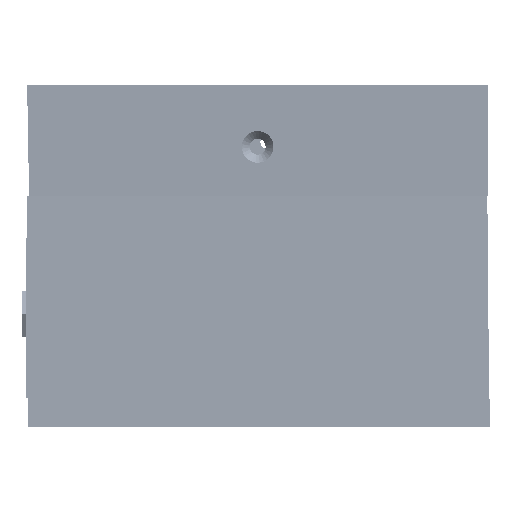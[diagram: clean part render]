
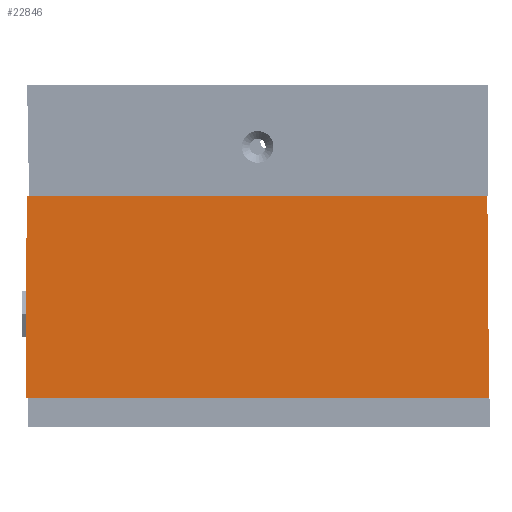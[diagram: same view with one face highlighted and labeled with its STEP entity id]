
A CAD part, left-side view. The second image highlights one B-rep face of the part: STEP entity #22846.
In plain terms, the highlighted planar face has unit normal (-1, 0, 0.009).
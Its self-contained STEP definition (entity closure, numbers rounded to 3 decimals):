
#1668=DIRECTION('',(0.,-1.,0.));
#1669=VECTOR('',#1668,160.625);
#1670=CARTESIAN_POINT('',(-80.225,92.812,
0.));
#1671=LINE('',#1670,#1669);
#4976=DIRECTION('',(0.,1.,0.));
#4977=VECTOR('',#4976,159.66);
#4978=CARTESIAN_POINT('',(-79.611,-67.198,70.35));
#4979=LINE('',#4978,#4977);
#4992=DIRECTION('',(-0.009,-0.009,-1.));
#4993=VECTOR('',#4992,70.355);
#4994=CARTESIAN_POINT('',(-79.611,-67.198,70.35));
#4995=LINE('',#4994,#4993);
#4996=DIRECTION('',(-0.009,0.,-1.));
#4997=VECTOR('',#4996,50.252);
#4998=CARTESIAN_POINT('',(-79.786,92.812,50.25));
#4999=LINE('',#4998,#4997);
#5084=DIRECTION('',(-0.009,0.017,-1.));
#5085=VECTOR('',#5084,20.104);
#5086=CARTESIAN_POINT('',(-79.611,92.461,70.35));
#5087=LINE('',#5086,#5085);
#11447=CARTESIAN_POINT('',(-79.611,92.461,70.35));
#11449=VERTEX_POINT('',#11447);
#11451=CARTESIAN_POINT('',(-79.786,92.812,
50.25));
#11452=VERTEX_POINT('',#11451);
#11541=CARTESIAN_POINT('',(-80.225,92.812,
0.));
#11542=VERTEX_POINT('',#11541);
#11547=CARTESIAN_POINT('',(-79.611,-67.198,70.35));
#11548=VERTEX_POINT('',#11547);
#11549=CARTESIAN_POINT('',(-80.225,-67.812,
0.));
#11550=VERTEX_POINT('',#11549);
#22832=CARTESIAN_POINT('',(-80.4,95.763,-20.1));
#22833=DIRECTION('',(1.,0.,-0.009));
#22834=DIRECTION('',(0.,1.,0.));
#22835=AXIS2_PLACEMENT_3D('',#22832,#22833,#22834);
#22836=PLANE('',#22835);
#22837=ORIENTED_EDGE('',*,*,#22823,.F.);
#22838=ORIENTED_EDGE('',*,*,#14585,.T.);
#22839=ORIENTED_EDGE('',*,*,#14400,.F.);
#22841=ORIENTED_EDGE('',*,*,#22840,.F.);
#22843=ORIENTED_EDGE('',*,*,#22842,.F.);
#22844=EDGE_LOOP('',(#22837,#22838,#22839,#22841,#22843));
#22845=FACE_OUTER_BOUND('',#22844,.F.);
#22846=ADVANCED_FACE('',(#22845),#22836,.F.);
#14400=EDGE_CURVE('',#11542,#11550,#1671,.T.);
#14585=EDGE_CURVE('',#11548,#11550,#4995,.T.);
#22823=EDGE_CURVE('',#11548,#11449,#4979,.T.);
#22840=EDGE_CURVE('',#11452,#11542,#4999,.T.);
#22842=EDGE_CURVE('',#11449,#11452,#5087,.T.);
